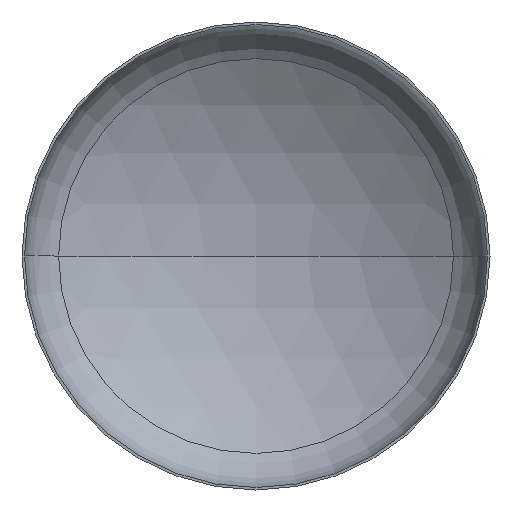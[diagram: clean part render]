
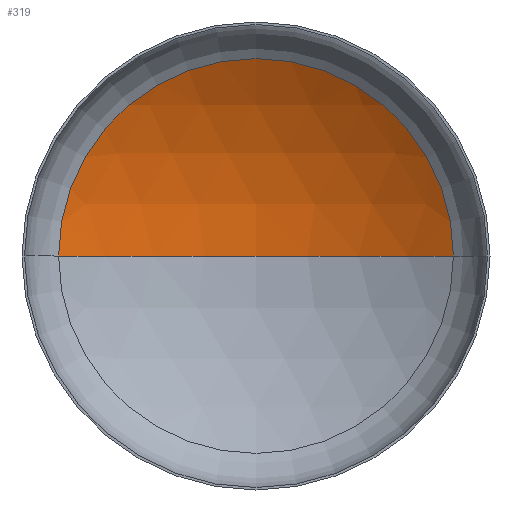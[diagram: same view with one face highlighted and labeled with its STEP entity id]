
A CAD part, front view. The second image highlights one B-rep face of the part: STEP entity #319.
In plain terms, the highlighted spherical face has radius 5600 mm.
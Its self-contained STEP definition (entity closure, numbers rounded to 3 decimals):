
#4 = VERTEX_POINT ( 'NONE', #247 ) ;
#17 = ORIENTED_EDGE ( 'NONE', *, *, #295, .F. ) ;
#31 = VERTEX_POINT ( 'NONE', #235 ) ;
#36 = DIRECTION ( 'NONE',  ( -1., 0., 0. ) ) ;
#70 = VERTEX_POINT ( 'NONE', #269 ) ;
#81 = EDGE_LOOP ( 'NONE', ( #17, #90, #94 ) ) ;
#90 = ORIENTED_EDGE ( 'NONE', *, *, #273, .T. ) ;
#94 = ORIENTED_EDGE ( 'NONE', *, *, #258, .T. ) ;
#130 = CARTESIAN_POINT ( 'NONE',  ( 0., -3720.796, 0. ) ) ;
#132 = DIRECTION ( 'NONE',  ( -1., 0., 0. ) ) ;
#134 = DIRECTION ( 'NONE',  ( 0., 0., -1. ) ) ;
#141 = DIRECTION ( 'NONE',  ( 1., 0., 0. ) ) ;
#145 = CARTESIAN_POINT ( 'NONE',  ( 0., -3720.796, 0. ) ) ;
#148 = DIRECTION ( 'NONE',  ( 1., 0., 0. ) ) ;
#149 = CIRCLE ( 'NONE', #189, 5600. ) ;
#169 = AXIS2_PLACEMENT_3D ( 'NONE', #377, #373, #148 ) ;
#189 = AXIS2_PLACEMENT_3D ( 'NONE', #130, #134, #132 ) ;
#215 = CIRCLE ( 'NONE', #246, 5600. ) ;
#234 = CIRCLE ( 'NONE', #169, 2952.389 ) ;
#235 = CARTESIAN_POINT ( 'NONE',  ( -2952.389, 1037.712, 0. ) ) ;
#246 = AXIS2_PLACEMENT_3D ( 'NONE', #145, #289, #141 ) ;
#247 = CARTESIAN_POINT ( 'NONE',  ( 2952.389, 1037.712, 0. ) ) ;
#258 = EDGE_CURVE ( 'NONE', #4, #31, #234, .T. ) ;
#269 = CARTESIAN_POINT ( 'NONE',  ( 0., 1879.204, 0. ) ) ;
#273 = EDGE_CURVE ( 'NONE', #70, #4, #149, .T. ) ;
#285 = SPHERICAL_SURFACE ( 'NONE', #298, 5600. ) ;
#289 = DIRECTION ( 'NONE',  ( 0., 0., 1. ) ) ;
#295 = EDGE_CURVE ( 'NONE', #70, #31, #215, .T. ) ;
#298 = AXIS2_PLACEMENT_3D ( 'NONE', #307, #358, #36 ) ;
#307 = CARTESIAN_POINT ( 'NONE',  ( 0., -3720.796, 0. ) ) ;
#319 = ADVANCED_FACE ( 'NONE', ( #411 ), #285, .F. ) ;
#358 = DIRECTION ( 'NONE',  ( 0., 0., -1. ) ) ;
#373 = DIRECTION ( 'NONE',  ( 0., -1., 0. ) ) ;
#377 = CARTESIAN_POINT ( 'NONE',  ( 0., 1037.712, 0. ) ) ;
#411 = FACE_OUTER_BOUND ( 'NONE', #81, .T. ) ;
